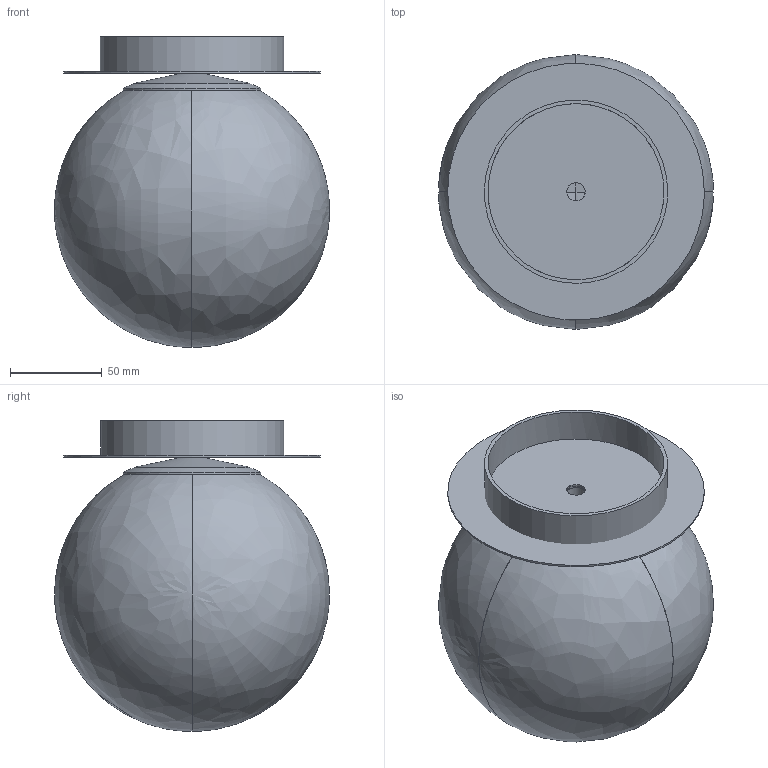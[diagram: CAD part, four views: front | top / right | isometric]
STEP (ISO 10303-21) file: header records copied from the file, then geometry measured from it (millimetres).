
FILE_DESCRIPTION(('FreeCAD Model'),'2;1');
FILE_NAME('Open CASCADE Shape Model','2022-12-21T10:37:10',('Author'),( ''),'Open CASCADE STEP processor 7.6','FreeCAD','Unknown');
FILE_SCHEMA(('AUTOMOTIVE_DESIGN { 1 0 10303 214 1 1 1 1 }'));
Length unit declared in the file: millimetre
Products named in the file (7): Unnamed; PARMA_A3946080_3D; PARMA_A3946080_3D001; PARMA_A3946080_3D002; PARMA_A3946080_3D003; PARMA_A3946080_3D004; PARMA_A3946080_3D005
Assembly tree (6 placements, depth 2):
  Unnamed
    PARMA_A3946080_3D
    PARMA_A3946080_3D001
    PARMA_A3946080_3D002
    PARMA_A3946080_3D003
    PARMA_A3946080_3D004
    PARMA_A3946080_3D005
Bounding box: 150 x 150 x 169.62 mm (x, y, z)
Volume: 74625.5 mm3; surface area: 201949.1 mm2
Topology: 4 solids, 9 shells, 35 faces, 93 edges, 67 vertices
Faces by surface type: bspline 35
Entity records: 5436 total; most frequent: CARTESIAN_POINT 4092, ORIENTED_EDGE 145, PCURVE 145, DEFINITIONAL_REPRESENTATION 145, B_SPLINE_CURVE_WITH_KNOTS 103, EDGE_CURVE 85, DIRECTION 83, SURFACE_CURVE 74
